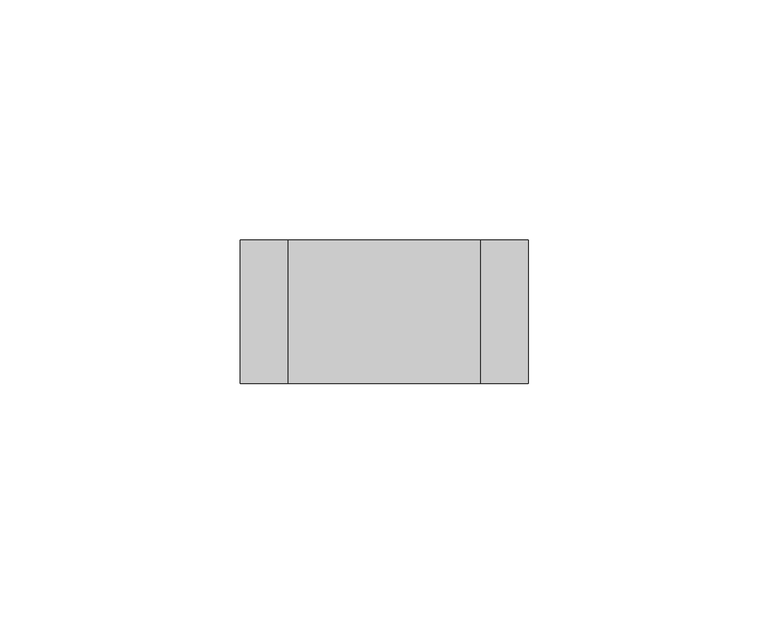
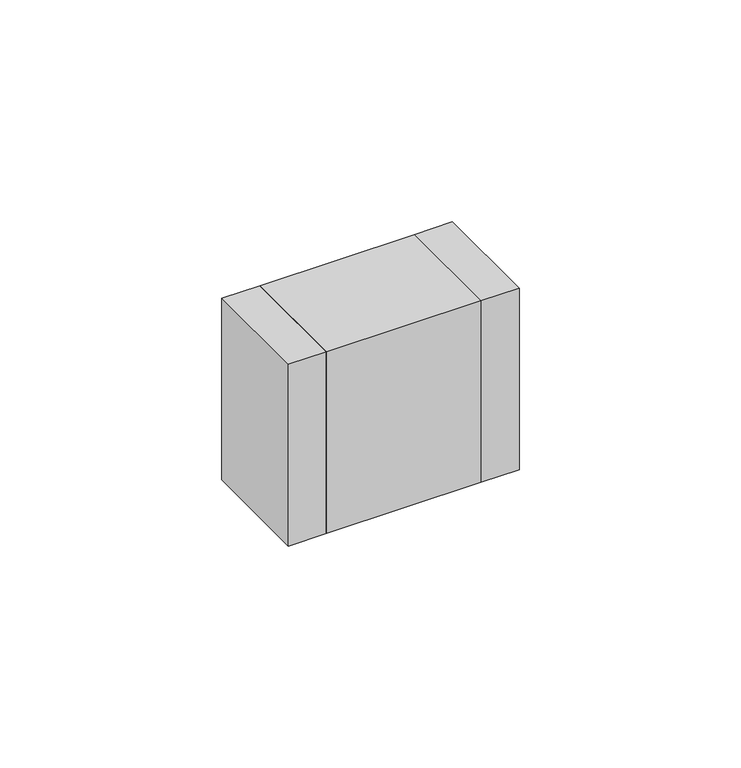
"""IFC4 building model written with IfcOpenShell, lengths in millimetres: alarm geometry, ZYR_12.01.08 Retenidor Electromagnètic : ZYR_12.01.08 Retenidor Electromagnètic."""

from ifc_helpers import new_model, si_unit, origin, origin_with_axes, place, context, project, spatial, polyline, outline, extrude, source, transform, mapped, element, save


def alarm_fafd4e25(model_context):
    return source(origin(), model_context, "Body", "SweptSolid", [
        extrude(outline(polyline([(20.0, -15.0), (-20.0, -15.0), (-20.0, 15.0), (20.0, 15.0), (20.0, -15.0)])), origin_with_axes(), (0.0, 0.0, 1.0), 50.0),
        extrude(outline(polyline([(30.0, -15.0), (20.0, -15.0), (20.0, 15.0), (30.0, 15.0), (30.0, -15.0)])), origin_with_axes(), (0.0, 0.0, 1.0), 50.0),
        extrude(outline(polyline([(-20.0, -15.0), (-30.0, -15.0), (-30.0, 15.0), (-20.0, 15.0), (-20.0, -15.0)])), origin_with_axes(), (0.0, 0.0, 1.0), 50.0),
    ])


if __name__ == "__main__":
    model = new_model("IFC4")
    model_context = context("Model", 3, world=origin())
    ifc_project = project(units=[si_unit("LENGTHUNIT", "METRE", prefix="MILLI")], contexts=[model_context])
    site = spatial("IfcSite", under=ifc_project)
    building = spatial("IfcBuilding", under=site)
    placement = place(None, origin())
    alarm_shape = alarm_fafd4e25(model_context)
    element("IfcAlarm", 1, ObjectType="ZYR_12.01.08 Retenidor Electromagnètic : ZYR_12.01.08 Retenidor Electromagnètic", at=placement, inside=building, context=model_context, shape_type="MappedRepresentation", body=[
        mapped(alarm_shape, transform((0.0, 0.0, 0.0), x_axis=(1.0, 0.0, 0.0), y_axis=(0.0, 1.0, 0.0), z_axis=(0.0, 0.0, 1.0))),
    ])
    save(model, "model.ifc")
